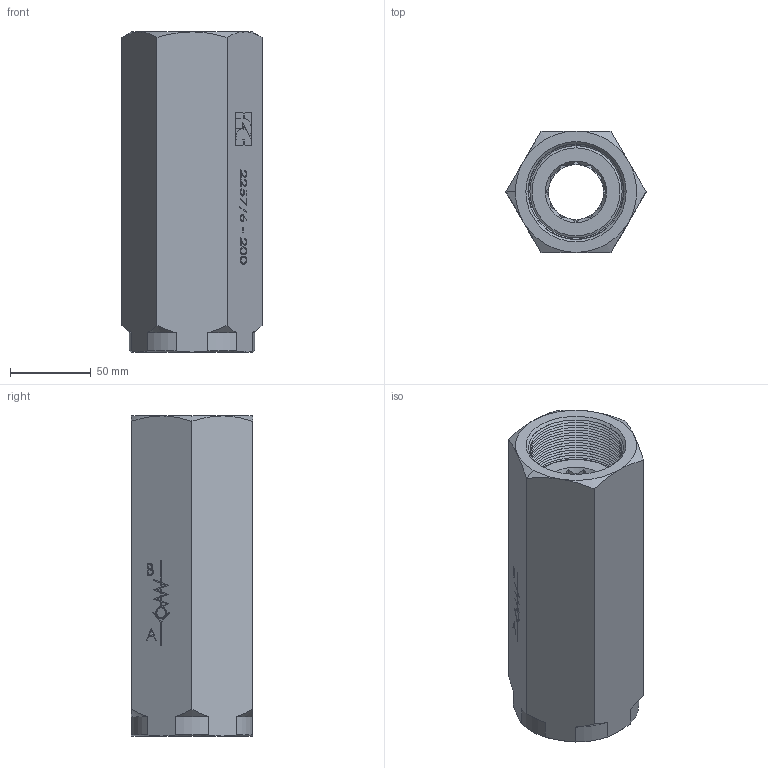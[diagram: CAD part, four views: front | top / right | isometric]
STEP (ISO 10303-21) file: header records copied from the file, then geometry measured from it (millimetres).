
FILE_DESCRIPTION (( 'STEP AP214' ), '1' );
FILE_NAME ('2257-6-200.STEP', '2015-04-08T20:04:23', ( '' ), ( '' ), 'SwSTEP 2.0', 'SolidWorks 2014', '' );
FILE_SCHEMA (( 'AUTOMOTIVE_DESIGN' ));
Length unit declared in the file: millimetre
Products named in the file (1): 2257-6-200
Bounding box: 86.6 x 75 x 198 mm (x, y, z)
Surface area: 79461.1 mm2 (no closed solid volume)
Topology: 0 solids, 5 shells, 347 faces, 1017 edges, 660 vertices
Faces by surface type: plane 147, cone 137, bspline 39, cylinder 24
Entity records: 18603 total; most frequent: CARTESIAN_POINT 6060, ORIENTED_EDGE 1754, DIRECTION 1653, EDGE_CURVE 1017, VERTEX_POINT 660, VECTOR 631, LINE 631, AXIS2_PLACEMENT_3D 511
